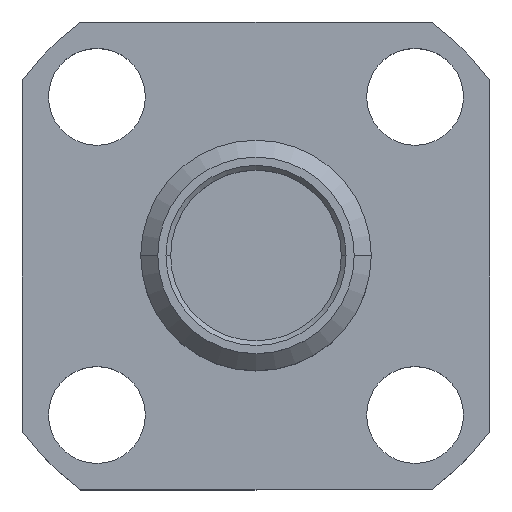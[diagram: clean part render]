
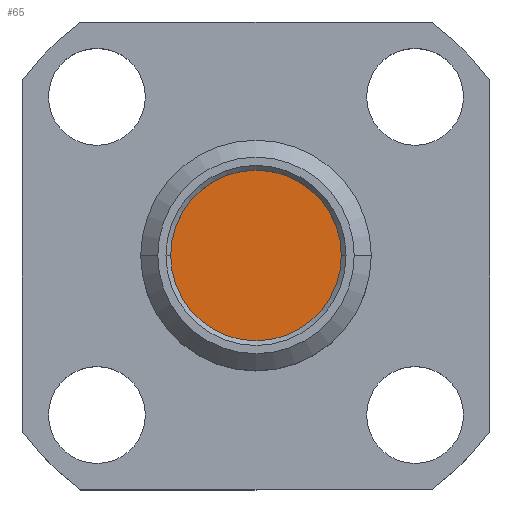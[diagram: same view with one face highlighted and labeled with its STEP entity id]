
A CAD part, top view. The second image highlights one B-rep face of the part: STEP entity #65.
In plain terms, the highlighted planar face has unit normal (0, 0, 1).
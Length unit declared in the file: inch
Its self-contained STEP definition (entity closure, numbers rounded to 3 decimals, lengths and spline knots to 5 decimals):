
#33 = AXIS2_PLACEMENT_3D ( 'NONE', #1502, #259, #1326 ) ;
#65 = ADVANCED_FACE ( 'NONE', ( #1998 ), #1429, .F. ) ;
#68 = EDGE_CURVE ( 'NONE', #819, #1866, #2238, .T. ) ;
#214 = EDGE_CURVE ( 'NONE', #1866, #819, #588, .T. ) ;
#259 = DIRECTION ( 'NONE',  ( 0., 0., 1. ) ) ;
#463 = DIRECTION ( 'NONE',  ( -1., 0., 0. ) ) ;
#541 = AXIS2_PLACEMENT_3D ( 'NONE', #2252, #989, #2068 ) ;
#588 = CIRCLE ( 'NONE', #33, 0.09123 ) ;
#646 = CARTESIAN_POINT ( 'NONE',  ( 0., 0.07987, -0.076 ) ) ;
#663 = AXIS2_PLACEMENT_3D ( 'NONE', #646, #1718, #463 ) ;
#819 = VERTEX_POINT ( 'NONE', #1827 ) ;
#989 = DIRECTION ( 'NONE',  ( 0., 0., 1. ) ) ;
#1326 = DIRECTION ( 'NONE',  ( 1., 0., 0. ) ) ;
#1429 = PLANE ( 'NONE',  #663 ) ;
#1502 = CARTESIAN_POINT ( 'NONE',  ( 0., 0., -0.076 ) ) ;
#1575 = ORIENTED_EDGE ( 'NONE', *, *, #68, .T. ) ;
#1708 = CARTESIAN_POINT ( 'NONE',  ( 0.09123, 0., -0.076 ) ) ;
#1718 = DIRECTION ( 'NONE',  ( 0., 0., -1. ) ) ;
#1827 = CARTESIAN_POINT ( 'NONE',  ( -0.09123, 0., -0.076 ) ) ;
#1834 = EDGE_LOOP ( 'NONE', ( #1918, #1575 ) ) ;
#1866 = VERTEX_POINT ( 'NONE', #1708 ) ;
#1918 = ORIENTED_EDGE ( 'NONE', *, *, #214, .T. ) ;
#1998 = FACE_OUTER_BOUND ( 'NONE', #1834, .T. ) ;
#2068 = DIRECTION ( 'NONE',  ( 1., 0., 0. ) ) ;
#2238 = CIRCLE ( 'NONE', #541, 0.09123 ) ;
#2252 = CARTESIAN_POINT ( 'NONE',  ( 0., 0., -0.076 ) ) ;
